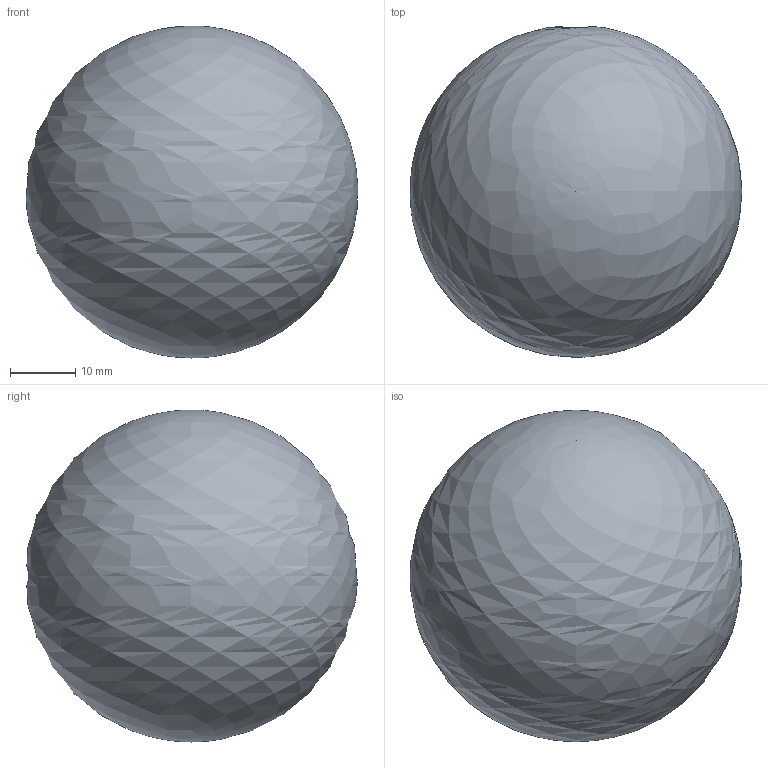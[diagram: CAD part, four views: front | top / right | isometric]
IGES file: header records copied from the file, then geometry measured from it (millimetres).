
Start section: IGES file generated by Pointwise V18.0 using ge-6.2.1
Global section: file name: /Users/frings/Desktop/test.iges; native system: Pointwise V18.0; preprocessor: ge-6.2.1; author: Unknown; organization: Unknown; date: 20180209.102937; units: inch
Bounding box: 50.76 x 50.55 x 50.8 mm (x, y, z)
Surface area: 8126.2 mm2 (no closed solid volume)
Topology: 0 solids, 0 shells, 1 faces, 7 edges, 7 vertices
Faces by surface type: bspline 1
